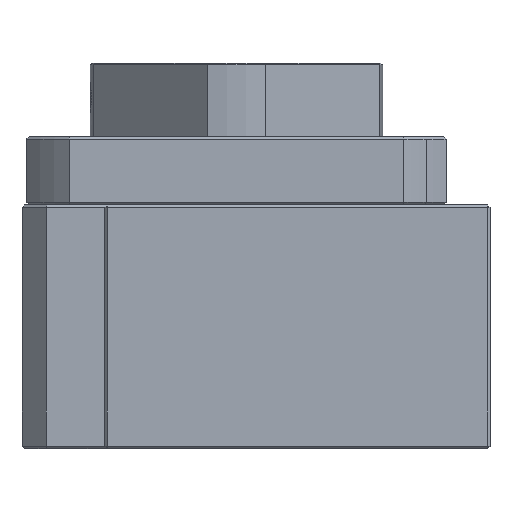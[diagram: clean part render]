
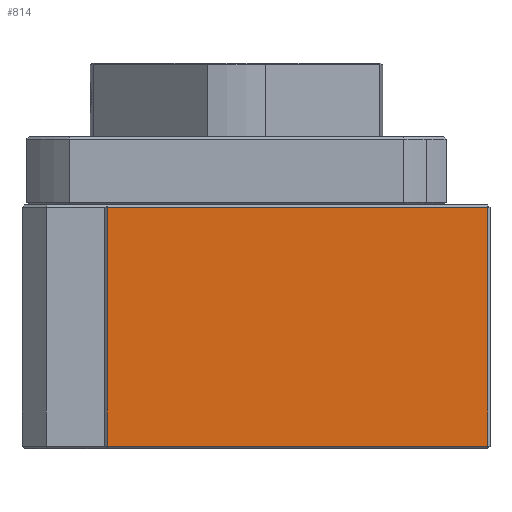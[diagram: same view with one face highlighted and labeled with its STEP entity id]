
A CAD part, left-side view. The second image highlights one B-rep face of the part: STEP entity #814.
In plain terms, the highlighted planar face has unit normal (-1, 0, 0).
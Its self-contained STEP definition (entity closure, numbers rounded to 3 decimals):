
#814 = ADVANCED_FACE ( 'NONE', ( #13388 ), #5203, .F. ) ;
#2189 = EDGE_CURVE ( 'NONE', #6016, #6017, #11667, .T. ) ;
#2191 = EDGE_CURVE ( 'NONE', #6015, #6016, #11673, .T. ) ;
#2193 = EDGE_CURVE ( 'NONE', #6017, #6018, #11679, .T. ) ;
#2195 = EDGE_CURVE ( 'NONE', #6018, #6015, #11685, .T. ) ;
#4505 = VECTOR ( 'NONE', #11669, 1000. ) ;
#4506 = VECTOR ( 'NONE', #11675, 1000. ) ;
#4508 = VECTOR ( 'NONE', #11681, 1000. ) ;
#4511 = VECTOR ( 'NONE', #11687, 1000. ) ;
#5203 = PLANE ( 'NONE',  #13374 ) ;
#5204 = CARTESIAN_POINT ( 'NONE',  ( -70., 27., 25. ) ) ;
#5205 = DIRECTION ( 'NONE',  ( 1., 0., 0. ) ) ;
#5206 = DIRECTION ( 'NONE',  ( 0., 1., 0. ) ) ;
#5559 = ORIENTED_EDGE ( 'NONE', *, *, #2191, .T. ) ;
#5564 = ORIENTED_EDGE ( 'NONE', *, *, #2193, .T. ) ;
#5565 = ORIENTED_EDGE ( 'NONE', *, *, #2189, .T. ) ;
#5566 = ORIENTED_EDGE ( 'NONE', *, *, #2195, .T. ) ;
#5864 = EDGE_LOOP ( 'NONE', ( #5559, #5565, #5564, #5566 ) ) ;
#6015 = VERTEX_POINT ( 'NONE', #9573 ) ;
#6016 = VERTEX_POINT ( 'NONE', #9574 ) ;
#6017 = VERTEX_POINT ( 'NONE', #9575 ) ;
#6018 = VERTEX_POINT ( 'NONE', #9576 ) ;
#9573 = CARTESIAN_POINT ( 'NONE',  ( -70., 26.5, 24.5 ) ) ;
#9574 = CARTESIAN_POINT ( 'NONE',  ( -70., 26.5, -24.5 ) ) ;
#9575 = CARTESIAN_POINT ( 'NONE',  ( -70., -51.5, -24.5 ) ) ;
#9576 = CARTESIAN_POINT ( 'NONE',  ( -70., -51.5, 24.5 ) ) ;
#11667 = LINE ( 'NONE', #11668, #4505 ) ;
#11668 = CARTESIAN_POINT ( 'NONE',  ( -70., 27., -24.5 ) ) ;
#11669 = DIRECTION ( 'NONE',  ( 0., -1., 0. ) ) ;
#11673 = LINE ( 'NONE', #11674, #4506 ) ;
#11674 = CARTESIAN_POINT ( 'NONE',  ( -70., 26.5, 25. ) ) ;
#11675 = DIRECTION ( 'NONE',  ( 0., 0., -1. ) ) ;
#11679 = LINE ( 'NONE', #11680, #4508 ) ;
#11680 = CARTESIAN_POINT ( 'NONE',  ( -70., -51.5, 25. ) ) ;
#11681 = DIRECTION ( 'NONE',  ( 0., 0., 1. ) ) ;
#11685 = LINE ( 'NONE', #11686, #4511 ) ;
#11686 = CARTESIAN_POINT ( 'NONE',  ( -70., 27., 24.5 ) ) ;
#11687 = DIRECTION ( 'NONE',  ( 0., 1., 0. ) ) ;
#13374 = AXIS2_PLACEMENT_3D ( 'NONE', #5204, #5205, #5206 ) ;
#13388 = FACE_OUTER_BOUND ( 'NONE', #5864, .T. ) ;
